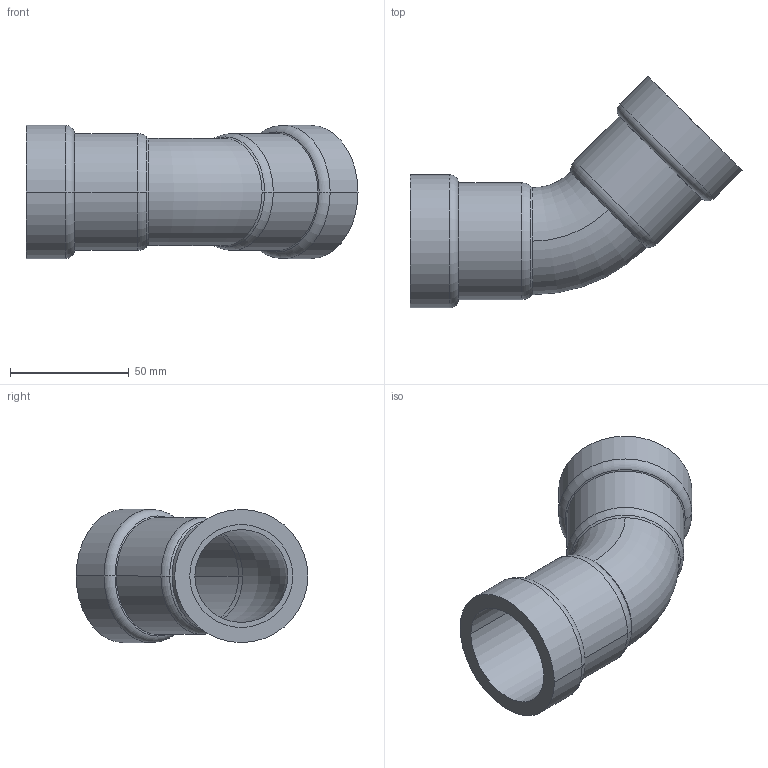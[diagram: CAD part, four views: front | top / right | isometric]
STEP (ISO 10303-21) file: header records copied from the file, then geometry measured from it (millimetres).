
FILE_DESCRIPTION(('Creo Elements/Direct Modeling STEP Export'),'2;1');
FILE_NAME('C9413_1-1-4.stp','2020-07-14T13:46:23',(''),(''),'PTC Creo Elements/Direct Modeling STEP processor for AP214 (Solid Model)','PTC Creo Elements/Direct Modeling 19.0C 15-Aug-2015 (C) Parametric Technology GmbH','');
FILE_SCHEMA(('AUTOMOTIVE_DESIGN { 1 0 10303 214 1 1 1 1 }'));
Length unit declared in the file: millimetre
Products named in the file (1): 9413_1-1-4
Bounding box: 139.57 x 97.41 x 56 mm (x, y, z)
Volume: 80078.6 mm3; surface area: 43257.9 mm2
Topology: 1 solids, 1 shells, 40 faces, 86 edges, 50 vertices
Faces by surface type: cylinder 16, torus 12, cone 8, plane 4
Entity records: 982 total; most frequent: DIRECTION 174, ORIENTED_EDGE 172, CARTESIAN_POINT 149, EDGE_CURVE 86, AXIS2_PLACEMENT_3D 75, VERTEX_POINT 50, EDGE_LOOP 44, FACE_OUTER_BOUND 40
